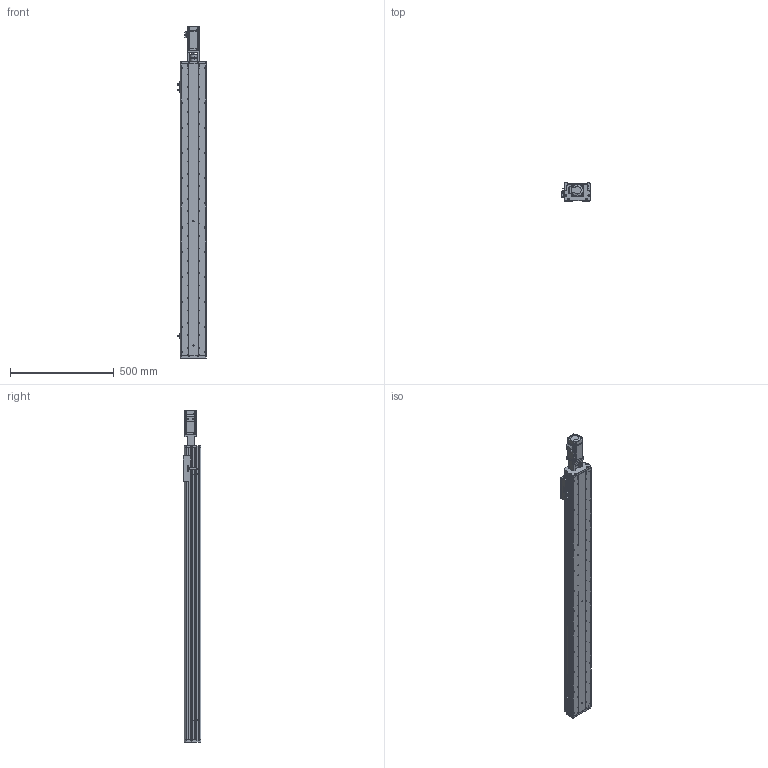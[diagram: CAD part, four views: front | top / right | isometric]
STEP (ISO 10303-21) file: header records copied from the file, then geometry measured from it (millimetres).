
FILE_DESCRIPTION (( 'STEP AP214' ), '1' );
FILE_NAME ('KSD125S-S1200-MT-CM.STEP', '2017-08-07T06:55:51', ( '微软用户' ), ( '微软中国' ), 'SwSTEP 2.0', 'SolidWorks 2014', '' );
FILE_SCHEMA (( 'AUTOMOTIVE_DESIGN' ));
Length unit declared in the file: millimetre
Products named in the file (13): CS-34X32-10X14; 125-帣傷啣1; KSD125S-S1200-MT-CM; KSD125S-1200俴最佪裝滅鳥裔; KSD125-賑雄釱1; KSD125S-1200俴最佪裝菁啣; MHMD042G1CA_2_03; 100遵鎮湛假蚾啣1 ; 拸萇儂釱滅袉菜; 覜茼え68遵圉猾敕; U倰嫖萇假蚾璃; U倰嫖萇EEㄜSX672; ヶ傷啣-125遵耀郪
Assembly tree (16 placements, depth 2):
  KSD125S-S1200-MT-CM
    125-帣傷啣1
    CS-34X32-10X14
    ヶ傷啣-125遵耀郪
    U倰嫖萇EEㄜSX672  x3
    U倰嫖萇假蚾璃  x3
    覜茼え68遵圉猾敕
    拸萇儂釱滅袉菜
    100遵鎮湛假蚾啣1 
    MHMD042G1CA_2_03
    KSD125-賑雄釱1
    KSD125S-1200俴最佪裝菁啣
    KSD125S-1200俴最佪裝滅鳥裔
Bounding box: 138.7 x 86 x 1603.5 mm (x, y, z)
Volume: 4437759.7 mm3; surface area: 1448932.7 mm2
Topology: 15 solids, 18 shells, 1626 faces, 4700 edges, 3095 vertices
Faces by surface type: cylinder 862, plane 651, cone 91, bspline 22
Entity records: 57889 total; most frequent: CARTESIAN_POINT 12072, DIRECTION 8334, ORIENTED_EDGE 7908, EDGE_CURVE 4032, AXIS2_PLACEMENT_3D 3107, VERTEX_POINT 2687, LINE 2120, VECTOR 2120
